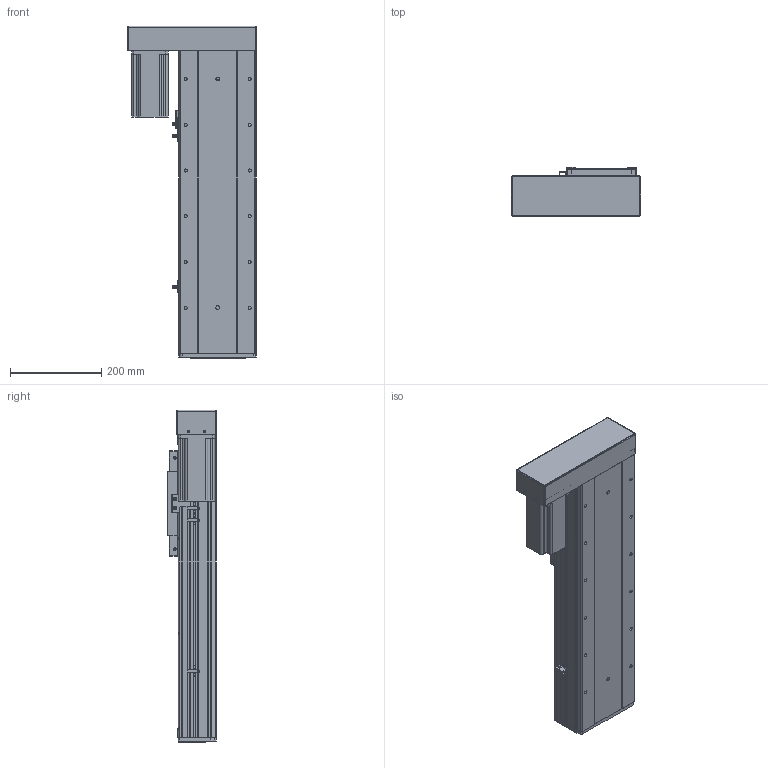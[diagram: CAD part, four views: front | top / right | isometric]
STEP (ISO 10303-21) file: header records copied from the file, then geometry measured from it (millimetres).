
FILE_DESCRIPTION (( 'STEP AP203' ), '1' );
FILE_NAME ('RY170F-L2020-300-LK.SLDASM_350.step', '2021-03-02T09:00:21', ( '盈信电脑' ), ( '东莞市道滘镇水果街19号' ), 'SwSTEP 2.0', 'SolidWorks 2012', '' );
FILE_SCHEMA (( 'CONFIG_CONTROL_DESIGN' ));
Length unit declared in the file: millimetre
Products named in the file (20): RY170F-L2020-300-LK.SLDASM_350; 怢湛750W萇儂ㄗ80遺ㄘ; RY170F酘衵殏萇儂欶; RY170F-酘衵殏萇儂釱; RY170F-蛌殏萇儂假蚾啣; 滅袉蝶18-24; 侐源滅袉蝶; RY170F-詩湍揤踡輸; 覜茼ん672; RY170F俋离覜茼え; RY170F-揤踡謫假蚾粣; RY170F-綴裔啣; RY170F-300眻蟀倰第奻裔啣-LK_350; RY170F-丝杆铝滑块连接板; RY100F-詩湍揤踡謫; 滅袉蝶18-10; RY170F-滅鳥奻裔; RY170F-300眻蟀祥凄詩湍-LK_350; RY170F-佪裝臏賑輸20蹟譫; RY170F-300眻蟀倰第菁釱-LK_350
Assembly tree (24 placements, depth 2):
  RY170F-L2020-300-LK.SLDASM_350
    RY170F-滅鳥奻裔
    RY170F-300眻蟀祥凄詩湍-LK_350
    RY170F-300眻蟀倰第菁釱-LK_350
    RY170F-佪裝臏賑輸20蹟譫
    RY170F-丝杆铝滑块连接板
    RY170F-300眻蟀倰第奻裔啣-LK_350  x2
    滅袉蝶18-10
    RY100F-詩湍揤踡謫
    RY170F-綴裔啣
    覜茼ん672  x3
    RY170F俋离覜茼え
    RY170F-揤踡謫假蚾粣
    RY170F-詩湍揤踡輸  x2
    滅袉蝶18-24
    侐源滅袉蝶  x2
    RY170F-酘衵殏萇儂釱
    RY170F-蛌殏萇儂假蚾啣
    怢湛750W萇儂ㄗ80遺ㄘ
    RY170F酘衵殏萇儂欶
Bounding box: 283 x 107 x 726 mm (x, y, z)
Volume: 5235846 mm3; surface area: 1609664.2 mm2
Topology: 24 solids, 24 shells, 1801 faces, 4998 edges, 3180 vertices
Faces by surface type: cylinder 845, plane 760, cone 188, bspline 8
Entity records: 51623 total; most frequent: CARTESIAN_POINT 10464, DIRECTION 8323, ORIENTED_EDGE 7968, EDGE_CURVE 3984, AXIS2_PLACEMENT_3D 2989, VERTEX_POINT 2600, LINE 2345, VECTOR 2345
